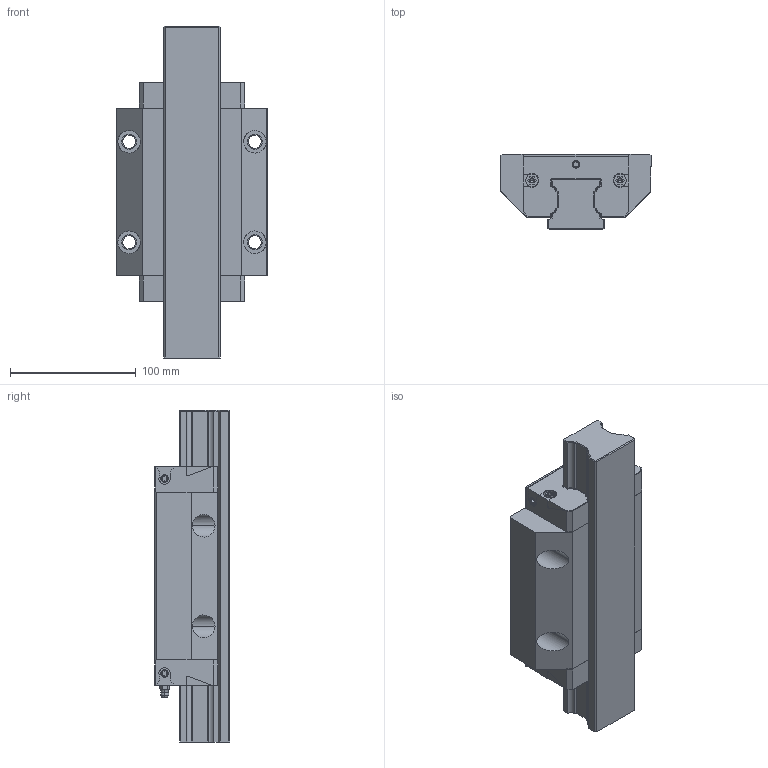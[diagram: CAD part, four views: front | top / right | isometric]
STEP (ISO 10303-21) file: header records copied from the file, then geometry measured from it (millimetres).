
FILE_DESCRIPTION((''),'2;1');
FILE_NAME('KWD_045_FLS_CS__ASM','2021-10-13T05:38:31',('ac91sw'),(''),'CREO PARAMETRIC BY PTC INC, 2020044','CREO PARAMETRIC BY PTC INC, 2020044','');
FILE_SCHEMA(('AUTOMOTIVE_DESIGN { 1 0 10303 214 1 1 1 1 }'));
Length unit declared in the file: millimetre
Products named in the file (7): KWD_045_FLS_CS__SKEL; R200240301; R200140102_Z; R343706101_Z; KWD_045_FLS_CS__PSF; R341700802_Z; KWD_045_FLS_CS__ASM
Assembly tree (11 placements, depth 2):
  KWD_045_FLS_CS__ASM
    KWD_045_FLS_CS__SKEL
    R200240301
    R200140102_Z  x2
    R343706101_Z  x5
    KWD_045_FLS_CS__PSF
    R341700802_Z
Bounding box: 120 x 60 x 264.1 mm (x, y, z)
Volume: 977906.9 mm3; surface area: 166036.4 mm2
Topology: 10 solids, 28 shells, 550 faces, 1406 edges, 902 vertices
Faces by surface type: plane 310, cylinder 166, cone 68, torus 4, sphere 2
Entity records: 17836 total; most frequent: CARTESIAN_POINT 2335, DIRECTION 1872, ORIENTED_EDGE 1732, EDGE_CURVE 890, PROPERTY_DEFINITION 822, REPRESENTATION 813, PROPERTY_DEFINITION_REPRESENTATION 813, DESCRIPTIVE_REPRESENTATION_ITEM 756
